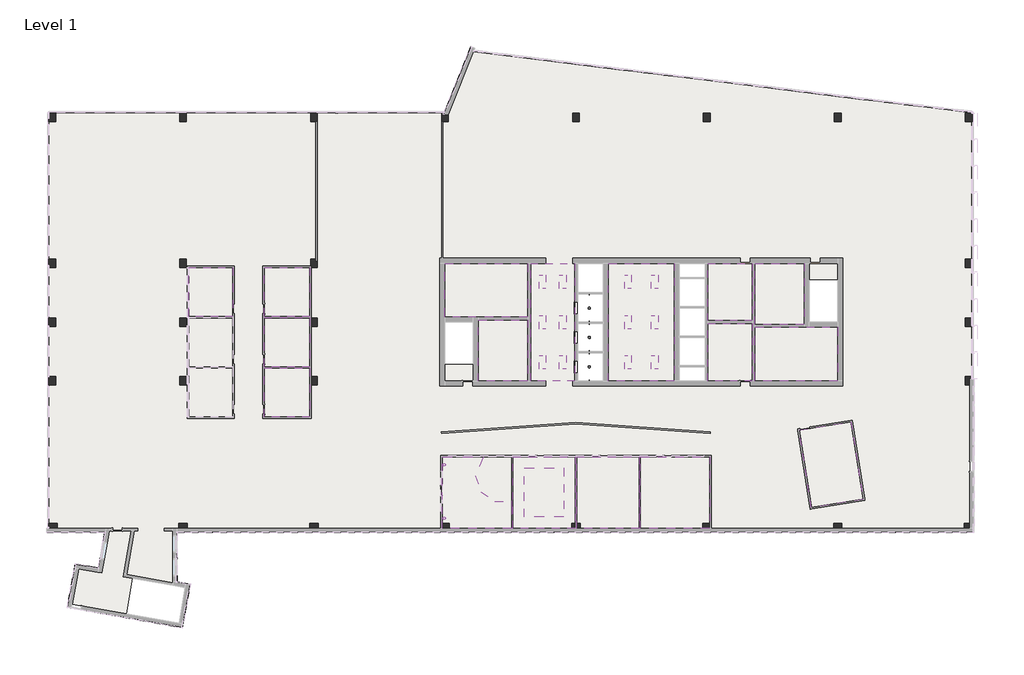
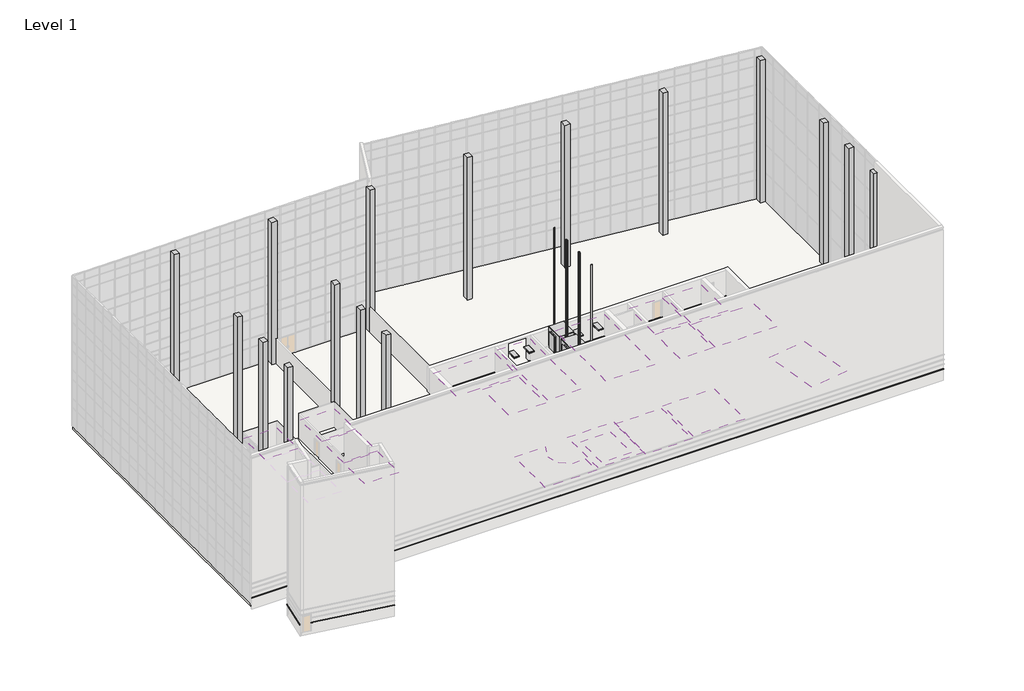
# One storey, part 23 of 23: 28 columns, 18 coverings, 17 proxies, 14 light fixtures, 1 slab.
"""IFC4 building model written with IfcOpenShell, lengths in millimetres."""

from ifc_helpers import new_model, si_unit, point, frame, frame_2d, origin, origin_with_axes, place, context, project, spatial, polyline, circle_curve, trimmed, segment, composite_curve, outline, extrude, faceted_brep, transform, mapped, element, save
from components import proxy_3500_lbs_8e23d717, proxy_7fed659c, concrete_rectangular_column_24_x_30_a0fa8d21, troffer_light_2x4_parabolic_2_x4_2_lamp_120v_ca384779, wall_lamp_bracket_100w_120v_72483117

model = new_model("IFC4")

# Units and contexts
model_context = context("Model", 3, world=origin())
ifc_project = project(units=[si_unit("LENGTHUNIT", "METRE", prefix="MILLI")], contexts=[model_context])

# Site, building, storey
site = spatial("IfcSite", under=ifc_project)
building = spatial("IfcBuilding", under=site)
storey = spatial("IfcBuildingStorey", under=building, Name="Level 1", Elevation=0.0)

# Proxies
placement = place(None, origin())
element("IfcBuildingElementProxy", 1, Name="Wall Sweeps", at=placement, inside=storey, context=model_context, shape_type="Brep", body=[
    faceted_brep([(15090.9304088, -27990.1353492, 1085.85), (15183.0054088, -28082.2103492, 1085.85), (15217.9304088, -28117.1353492, 1041.4), (15217.9304088, -28117.1353492, 1016.0), (15090.9304088, -27990.1353492, 1016.0), (-57168.1625003, -27990.1353492, 1085.85), (-57168.1625003, -27990.1353492, 1016.0), (-57041.1625003, -28117.1353492, 1016.0), (-57041.1625003, -28117.1353492, 1041.4), (-57076.0875003, -28082.2103492, 1085.85), (-57076.0875003, -27990.1353492, 1085.85), (-57076.0875003, -27990.1353492, 1016.0)], [[[0, 1, 2, 3, 4]], [[5, 6, 7, 8, 9]], [[1, 0, 10, 5, 9]], [[2, 1, 9, 8]], [[3, 2, 8, 7]], [[4, 3, 7, 6, 11]], [[0, 4, 11, 6, 5, 10]]]),
])
element("IfcBuildingElementProxy", 2, Name="Wall Sweeps", at=placement, inside=storey, context=model_context, shape_type="Brep", body=[
    faceted_brep([(-63907.0723883, -30506.6915786, 1085.85), (-63907.0723883, -30506.6915786, 1016.0), (-63997.7485622, -30490.7029226, 1016.0), (-64032.142973, -30484.63826, 1016.0), (-64032.142973, -30484.63826, 1041.4), (-63997.7485622, -30490.7029226, 1085.85), (-64081.0179385, -31493.1858149, 1085.85), (-64155.7054564, -31386.5209851, 1085.85), (-64184.0352046, -31346.0619117, 1041.4), (-64184.0352046, -31346.0619117, 1016.0), (-64081.0179385, -31493.1858149, 1016.0)], [[[0, 1, 2, 3, 4, 5]], [[6, 7, 8, 9, 10]], [[0, 5, 7, 6]], [[5, 4, 8, 7]], [[4, 3, 9, 8]], [[3, 2, 1, 10, 9]], [[1, 0, 6, 10]]]),
    faceted_brep([(-63463.3356266, -27990.1353492, 1085.85), (-63463.3356266, -27990.1353492, 1016.0), (-63614.6883329, -28117.1353492, 1016.0), (-63614.6883329, -28117.1353492, 1041.4), (-63573.0663387, -28082.2103492, 1085.85), (-63642.4325656, -29005.844563, 1085.85), (-63733.1087394, -28989.855907, 1085.85), (-63767.5031502, -28983.7912444, 1041.4), (-63767.5031502, -28983.7912444, 1016.0), (-63733.1087394, -28989.855907, 1016.0), (-63642.4325656, -29005.844563, 1016.0)], [[[0, 1, 2, 3, 4]], [[5, 6, 7, 8, 9, 10]], [[0, 4, 6, 5]], [[4, 3, 7, 6]], [[3, 2, 8, 7]], [[2, 1, 10, 9, 8]], [[1, 0, 5, 10]]]),
])
element("IfcBuildingElementProxy", 3, Name="Wall Sweeps", at=placement, inside=storey, context=model_context, shape_type="Brep", body=[
    faceted_brep([(-64081.0179385, -31493.1858149, 1085.85), (-64081.0179385, -31493.1858149, 1016.0), (-64184.0352046, -31346.0619117, 1016.0), (-64184.0352046, -31346.0619117, 1041.4), (-64155.7054564, -31386.5209851, 1085.85), (-66182.2037603, -31122.690063, 1085.85), (-66256.8912782, -31016.0252332, 1085.85), (-66285.2210264, -30975.5661598, 1041.4), (-66285.2210264, -30975.5661598, 1016.0), (-66182.2037603, -31122.690063, 1016.0), (-64171.6941124, -31477.1971589, 1085.85), (-64171.6941124, -31477.1971589, 1016.0)], [[[0, 1, 2, 3, 4]], [[5, 6, 7, 8, 9]], [[0, 4, 6, 5, 10]], [[4, 3, 7, 6]], [[3, 2, 8, 7]], [[2, 1, 11, 9, 8]], [[1, 0, 10, 5, 9, 11]]]),
])
element("IfcBuildingElementProxy", 4, Name="Wall Sweeps", at=placement, inside=storey, context=model_context, shape_type="Brep", body=[
    faceted_brep([(-66182.2037603, -31122.690063, 1085.85), (-66182.2037603, -31122.690063, 1016.0), (-66285.2210264, -30975.5661598, 1016.0), (-66285.2210264, -30975.5661598, 1041.4), (-66256.8912782, -31016.0252332, 1085.85), (-66854.2786436, -34934.2161297, 1085.85), (-66944.9548174, -34918.2274737, 1085.85), (-66979.3492282, -34912.1628111, 1041.4), (-66979.3492282, -34912.1628111, 1016.0), (-66944.9548174, -34918.2274737, 1016.0), (-66854.2786436, -34934.2161297, 1016.0), (-66227.4130634, -31379.0847615, 1085.85), (-66227.4130634, -31379.0847615, 1016.0)], [[[0, 1, 2, 3, 4]], [[5, 6, 7, 8, 9, 10]], [[0, 4, 6, 5, 11]], [[4, 3, 7, 6]], [[3, 2, 8, 7]], [[2, 1, 12, 10, 9, 8]], [[1, 0, 11, 5, 10, 12]]]),
])
element("IfcBuildingElementProxy", 5, Name="Wall Sweeps", at=placement, inside=storey, context=model_context, shape_type="Brep", body=[
    faceted_brep([(-65768.936489, -35032.0958295, 1085.85), (-65768.936489, -35032.0958295, 1016.0), (-65784.925145, -35122.7720034, 1016.0), (-65790.9898076, -35157.1664142, 1016.0), (-65790.9898076, -35157.1664142, 1041.4), (-65784.925145, -35122.7720034, 1085.85), (-56654.4176339, -36639.2314199, 1085.85), (-56579.730116, -36745.8962497, 1085.85), (-56551.4003678, -36786.3553231, 1041.4), (-56551.4003678, -36786.3553231, 1016.0), (-56654.4176339, -36639.2314199, 1016.0)], [[[0, 1, 2, 3, 4, 5]], [[6, 7, 8, 9, 10]], [[0, 5, 7, 6]], [[5, 4, 8, 7]], [[4, 3, 9, 8]], [[3, 2, 1, 10, 9]], [[1, 0, 6, 10]]]),
])
element("IfcBuildingElementProxy", 6, Name="Wall Sweeps", at=placement, inside=storey, context=model_context, shape_type="Brep", body=[
    faceted_brep([(-56654.4176339, -36639.2314199, 1085.85), (-56654.4176339, -36639.2314199, 1016.0), (-56551.4003678, -36786.3553231, 1016.0), (-56551.4003678, -36786.3553231, 1041.4), (-56579.730116, -36745.8962497, 1085.85), (-55998.3314066, -32918.3815271, 1085.85), (-55891.6665768, -32843.6940092, 1085.85), (-55851.2075034, -32815.364261, 1041.4), (-55851.2075034, -32815.364261, 1016.0), (-55998.3314066, -32918.3815271, 1016.0), (-56609.2083309, -36382.8367214, 1085.85), (-56609.2083309, -36382.8367214, 1016.0)], [[[0, 1, 2, 3, 4]], [[5, 6, 7, 8, 9]], [[0, 4, 6, 5, 10]], [[4, 3, 7, 6]], [[3, 2, 8, 7]], [[2, 1, 11, 9, 8]], [[1, 0, 10, 5, 9, 11]]]),
])
element("IfcBuildingElementProxy", 7, Name="Wall Sweeps", at=placement, inside=storey, context=model_context, shape_type="Brep", body=[
    faceted_brep([(-55998.3314066, -32918.3815271, 1085.85), (-55998.3314066, -32918.3815271, 1016.0), (-55851.2075034, -32815.364261, 1016.0), (-55851.2075034, -32815.364261, 1041.4), (-55891.6665768, -32843.6940092, 1085.85), (-57168.1625003, -32712.1087424, 1085.85), (-57076.0875003, -32634.8486438, 1085.85), (-57041.1625003, -32605.5430892, 1041.4), (-57041.1625003, -32605.5430892, 1016.0), (-57168.1625003, -32712.1087424, 1016.0), (-56254.7261051, -32873.172224, 1085.85), (-56254.7261051, -32873.172224, 1016.0)], [[[0, 1, 2, 3, 4]], [[5, 6, 7, 8, 9]], [[0, 4, 6, 5, 10]], [[4, 3, 7, 6]], [[3, 2, 8, 7]], [[2, 1, 11, 9, 8]], [[1, 0, 10, 5, 9, 11]]]),
])
element("IfcBuildingElementProxy", 8, Name="Wall Sweeps", at=placement, inside=storey, context=model_context, shape_type="Brep", body=[
    faceted_brep([(-57168.1625003, -28391.7728492, 1085.85), (-57168.1625003, -28391.7728492, 1016.0), (-57076.0875003, -28391.7728492, 1016.0), (-57041.1625003, -28391.7728492, 1016.0), (-57041.1625003, -28391.7728492, 1041.4), (-57076.0875003, -28391.7728492, 1085.85), (-57168.1625003, -27990.1353492, 1085.85), (-57076.0875003, -28082.2103492, 1085.85), (-57041.1625003, -28117.1353492, 1041.4), (-57041.1625003, -28117.1353492, 1016.0), (-57168.1625003, -27990.1353492, 1016.0)], [[[0, 1, 2, 3, 4, 5]], [[6, 7, 8, 9, 10]], [[0, 5, 7, 6]], [[5, 4, 8, 7]], [[4, 3, 9, 8]], [[3, 2, 1, 10, 9]], [[1, 0, 6, 10]]]),
    faceted_brep([(-57168.1625003, -30525.3728492, 1085.85), (-57168.1625003, -30525.3728492, 1016.0), (-57076.0875003, -30525.3728492, 1016.0), (-57041.1625003, -30525.3728492, 1016.0), (-57041.1625003, -30525.3728492, 1041.4), (-57076.0875003, -30525.3728492, 1085.85), (-57168.1625003, -29915.7728492, 1085.85), (-57076.0875003, -29915.7728492, 1085.85), (-57041.1625003, -29915.7728492, 1041.4), (-57041.1625003, -29915.7728492, 1016.0), (-57076.0875003, -29915.7728492, 1016.0), (-57168.1625003, -29915.7728492, 1016.0)], [[[0, 1, 2, 3, 4, 5]], [[6, 7, 8, 9, 10, 11]], [[0, 5, 7, 6]], [[5, 4, 8, 7]], [[4, 3, 9, 8]], [[3, 2, 1, 11, 10, 9]], [[1, 0, 6, 11]]]),
    faceted_brep([(-57168.1625003, -32712.1087424, 1085.85), (-57168.1625003, -32712.1087424, 1016.0), (-57041.1625003, -32605.5430892, 1016.0), (-57041.1625003, -32605.5430892, 1041.4), (-57076.0875003, -32634.8486438, 1085.85), (-57168.1625003, -32049.3728492, 1085.85), (-57076.0875003, -32049.3728492, 1085.85), (-57041.1625003, -32049.3728492, 1041.4), (-57041.1625003, -32049.3728492, 1016.0), (-57076.0875003, -32049.3728492, 1016.0), (-57168.1625003, -32049.3728492, 1016.0), (-57168.1625003, -32618.6133371, 1085.85), (-57168.1625003, -32618.6133371, 1016.0)], [[[0, 1, 2, 3, 4]], [[5, 6, 7, 8, 9, 10]], [[0, 4, 6, 5, 11]], [[4, 3, 7, 6]], [[3, 2, 8, 7]], [[2, 1, 12, 10, 9, 8]], [[1, 0, 11, 5, 10, 12]]]),
])
element("IfcBuildingElementProxy", 9, Name="Wall Sweeps", at=placement, inside=storey, context=model_context, shape_type="Brep", body=[
    faceted_brep([(-63463.3356266, -27990.1353492, 1085.85), (-63573.0663387, -28082.2103492, 1085.85), (-63614.6883329, -28117.1353492, 1041.4), (-63614.6883329, -28117.1353492, 1016.0), (-63463.3356266, -27990.1353492, 1016.0), (-68878.5489105, -27990.1353492, 1085.85), (-68878.5489105, -27990.1353492, 1016.0), (-68878.5489105, -28082.2103492, 1016.0), (-68878.5489105, -28117.1353492, 1016.0), (-68878.5489105, -28117.1353492, 1041.4), (-68878.5489105, -28082.2103492, 1085.85), (-63556.8310319, -27990.1353492, 1085.85), (-63556.8310319, -27990.1353492, 1016.0)], [[[0, 1, 2, 3, 4]], [[5, 6, 7, 8, 9, 10]], [[1, 0, 11, 5, 10]], [[2, 1, 10, 9]], [[3, 2, 9, 8]], [[4, 3, 8, 7, 6, 12]], [[0, 4, 12, 6, 5, 11]]]),
])
element("IfcBuildingElementProxy", 10, Name="Wall Sweeps", at=placement, inside=storey, context=model_context, shape_type="Brep", body=[
    faceted_brep([(-32762.8098895, 9770.5727487, 1085.85), (-32848.1803429, 9805.0646508, 1085.85), (-32880.5622391, 9818.1477861, 1041.4), (-32880.5622391, 9818.1477861, 1016.0), (-32762.8098895, 9770.5727487, 1016.0), (-30279.0815275, 15918.016165, 1085.85), (-30279.0815275, 15918.016165, 1016.0), (-30364.4519809, 15952.5080671, 1016.0), (-30396.833877, 15965.5912024, 1016.0), (-30396.833877, 15965.5912024, 1041.4), (-30364.4519809, 15952.5080671, 1085.85), (-32748.8742565, 9805.0646508, 1085.85), (-32748.8742565, 9805.0646508, 1016.0)], [[[0, 1, 2, 3, 4]], [[5, 6, 7, 8, 9, 10]], [[1, 0, 11, 5, 10]], [[2, 1, 10, 9]], [[3, 2, 9, 8]], [[4, 3, 8, 7, 6, 12]], [[0, 4, 12, 6, 5, 11]]]),
])
element("IfcBuildingElementProxy", 11, Name="Wall Sweeps", at=placement, inside=storey, context=model_context, shape_type="Brep", body=[
    faceted_brep([(15090.9304088, -14142.3728492, 1085.85), (15183.0054088, -14142.3728492, 1085.85), (15217.9304088, -14142.3728492, 1041.4), (15217.9304088, -14142.3728492, 1016.0), (15183.0054088, -14142.3728492, 1016.0), (15090.9304088, -14142.3728492, 1016.0), (15090.9304088, -21686.0488327, 1085.85), (15090.9304088, -21686.0488327, 1016.0), (15183.0054088, -21686.0488327, 1016.0), (15217.9304088, -21686.0488327, 1016.0), (15217.9304088, -21686.0488327, 1041.4), (15183.0054088, -21686.0488327, 1085.85)], [[[0, 1, 2, 3, 4, 5]], [[6, 7, 8, 9, 10, 11]], [[1, 0, 6, 11]], [[2, 1, 11, 10]], [[3, 2, 10, 9]], [[5, 4, 3, 9, 8, 7]], [[0, 5, 7, 6]]]),
    faceted_brep([(15090.9304088, -22600.4488327, 1085.85), (15183.0054088, -22600.4488327, 1085.85), (15217.9304088, -22600.4488327, 1041.4), (15217.9304088, -22600.4488327, 1016.0), (15183.0054088, -22600.4488327, 1016.0), (15090.9304088, -22600.4488327, 1016.0), (15090.9304088, -27990.1353492, 1085.85), (15090.9304088, -27990.1353492, 1016.0), (15217.9304088, -28117.1353492, 1016.0), (15217.9304088, -28117.1353492, 1041.4), (15183.0054088, -28082.2103492, 1085.85), (15090.9304088, -27729.7853492, 1085.85), (15090.9304088, -27729.7853492, 1016.0)], [[[0, 1, 2, 3, 4, 5]], [[6, 7, 8, 9, 10]], [[1, 0, 11, 6, 10]], [[2, 1, 10, 9]], [[3, 2, 9, 8]], [[5, 4, 3, 8, 7, 12]], [[0, 5, 12, 7, 6, 11]]]),
])
proxy_3500_lbs_shape = proxy_3500_lbs_8e23d717(model_context)
element("IfcBuildingElementProxy", 12, Name="Elevator-Hydraulic[1] : 3500 lbs", ObjectType="Elevator-Hydraulic[1] : 3500 lbs", at=placement, inside=storey, context=model_context, shape_type="MappedRepresentation", body=[
    mapped(proxy_3500_lbs_shape, transform((-19661.1503332, -13088.7633527, 0.0), x_axis=(0.0, -1.0, 0.0), y_axis=(1.0, 0.0, 0.0), z_axis=(0.0, 0.0, 1.0))),
])
element("IfcBuildingElementProxy", 13, Name="Elevator-Hydraulic[1] : 3500 lbs", ObjectType="Elevator-Hydraulic[1] : 3500 lbs", at=placement, inside=storey, context=model_context, shape_type="MappedRepresentation", body=[
    mapped(proxy_3500_lbs_shape, transform((-19661.1503332, -10421.7633527, 0.0), x_axis=(0.0, -1.0, 0.0), y_axis=(1.0, 0.0, 0.0), z_axis=(0.0, 0.0, 1.0))),
])
element("IfcBuildingElementProxy", 14, Name="Elevator-Hydraulic[1] : 3500 lbs", ObjectType="Elevator-Hydraulic[1] : 3500 lbs", at=placement, inside=storey, context=model_context, shape_type="MappedRepresentation", body=[
    mapped(proxy_3500_lbs_shape, transform((-19661.1503332, -7754.7633527, 0.0), x_axis=(0.0, -1.0, 0.0), y_axis=(1.0, 0.0, 0.0), z_axis=(0.0, 0.0, 1.0))),
])
proxy_shape = proxy_7fed659c(model_context)
element("IfcBuildingElementProxy", 15, Name="Elevator%20Door-Center[1] : 42\" x 84\"", ObjectType="Elevator%20Door-Center[1] : 42\" x 84\"", at=placement, inside=storey, context=model_context, shape_type="MappedRepresentation", body=[
    mapped(proxy_shape, transform((-20852.1285069, -7663.0747049, 0.0), x_axis=(0.0, 1.0, 0.0), y_axis=(-1.0, 0.0, 0.0), z_axis=(0.0, 0.0, 1.0))),
])
element("IfcBuildingElementProxy", 16, Name="Elevator%20Door-Center[1] : 42\" x 84\"", ObjectType="Elevator%20Door-Center[1] : 42\" x 84\"", at=placement, inside=storey, context=model_context, shape_type="MappedRepresentation", body=[
    mapped(proxy_shape, transform((-20852.1285069, -10330.0747049, 0.0), x_axis=(0.0, 1.0, 0.0), y_axis=(-1.0, 0.0, 0.0), z_axis=(0.0, 0.0, 1.0))),
])
element("IfcBuildingElementProxy", 17, Name="Elevator%20Door-Center[1] : 42\" x 84\"", ObjectType="Elevator%20Door-Center[1] : 42\" x 84\"", at=placement, inside=storey, context=model_context, shape_type="MappedRepresentation", body=[
    mapped(proxy_shape, transform((-20852.1285069, -12997.0747049, 0.0), x_axis=(0.0, 1.0, 0.0), y_axis=(-1.0, 0.0, 0.0), z_axis=(0.0, 0.0, 1.0))),
])

# Columns
element("IfcColumn", 18, ObjectType="Concrete-Rectangular-Column : 24 x 30", at=placement, inside=storey, context=model_context, shape_type="SweptSolid", body=[
    extrude(outline(polyline([(15045.3286359, -13985.2103492), (15045.3286359, -14747.2103492), (14435.7286359, -14747.2103492), (14435.7286359, -13985.2103492), (15045.3286359, -13985.2103492)])), origin_with_axes(), (0.0, 0.0, 1.0), 18288.0),
])
element("IfcColumn", 19, ObjectType="Concrete-Rectangular-Column : 24 x 30", at=placement, inside=storey, context=model_context, shape_type="SweptSolid", body=[
    extrude(outline(polyline([(15045.3286359, -8651.2103492), (15045.3286359, -9413.2103492), (14435.7286359, -9413.2103492), (14435.7286359, -8651.2103492), (15045.3286359, -8651.2103492)])), origin_with_axes(), (0.0, 0.0, 1.0), 18288.0),
])
element("IfcColumn", 20, ObjectType="Concrete-Rectangular-Column : 24 x 30", at=placement, inside=storey, context=model_context, shape_type="SweptSolid", body=[
    extrude(outline(polyline([(15045.3286359, -3317.2103492), (15045.3286359, -4079.2103492), (14435.7286359, -4079.2103492), (14435.7286359, -3317.2103492), (15045.3286359, -3317.2103492)])), origin_with_axes(), (0.0, 0.0, 1.0), 18288.0),
])
element("IfcColumn", 21, ObjectType="Concrete-Rectangular-Column : 24 x 30", at=placement, inside=storey, context=model_context, shape_type="SweptSolid", body=[
    extrude(outline(polyline([(-68063.4713641, -13985.2103492), (-68063.4713641, -14747.2103492), (-68673.0713641, -14747.2103492), (-68673.0713641, -13985.2103492), (-68063.4713641, -13985.2103492)])), origin_with_axes(), (0.0, 0.0, 1.0), 18288.0),
])
element("IfcColumn", 22, ObjectType="Concrete-Rectangular-Column : 24 x 30", at=placement, inside=storey, context=model_context, shape_type="SweptSolid", body=[
    extrude(outline(polyline([(-68063.4713641, -8651.2103492), (-68063.4713641, -9413.2103492), (-68673.0713641, -9413.2103492), (-68673.0713641, -8651.2103492), (-68063.4713641, -8651.2103492)])), origin_with_axes(), (0.0, 0.0, 1.0), 18288.0),
])
element("IfcColumn", 23, ObjectType="Concrete-Rectangular-Column : 24 x 30", at=placement, inside=storey, context=model_context, shape_type="SweptSolid", body=[
    extrude(outline(polyline([(-68063.4713641, -3317.2103492), (-68063.4713641, -4079.2103492), (-68673.0713641, -4079.2103492), (-68673.0713641, -3317.2103492), (-68063.4713641, -3317.2103492)])), origin_with_axes(), (0.0, 0.0, 1.0), 18288.0),
])
element("IfcColumn", 24, ObjectType="Concrete-Rectangular-Column : 24 x 30", at=placement, inside=storey, context=model_context, shape_type="SweptSolid", body=[
    extrude(outline(polyline([(14435.7286359, 9154.1896508), (14435.7286359, 9916.1896508), (15045.3286359, 9916.1896508), (15045.3286359, 9154.1896508), (14435.7286359, 9154.1896508)])), origin_with_axes(), (0.0, 0.0, 1.0), 18288.0),
])
element("IfcColumn", 25, ObjectType="Concrete-Rectangular-Column : 24 x 30", at=placement, inside=storey, context=model_context, shape_type="SweptSolid", body=[
    extrude(outline(polyline([(-68673.0713641, 9154.1896508), (-68673.0713641, 9916.1896508), (-68063.4713641, 9916.1896508), (-68063.4713641, 9154.1896508), (-68673.0713641, 9154.1896508)])), origin_with_axes(), (0.0, 0.0, 1.0), 18288.0),
])
element("IfcColumn", 26, ObjectType="Concrete-Rectangular-Column : 24 x 30", at=placement, inside=storey, context=model_context, shape_type="SweptSolid", body=[
    extrude(outline(polyline([(2563.0429217, 9154.1896508), (2563.0429217, 9916.1896508), (3172.6429217, 9916.1896508), (3172.6429217, 9154.1896508), (2563.0429217, 9154.1896508)])), origin_with_axes(), (0.0, 0.0, 1.0), 18288.0),
])
element("IfcColumn", 27, ObjectType="Concrete-Rectangular-Column : 24 x 30", at=placement, inside=storey, context=model_context, shape_type="SweptSolid", body=[
    extrude(outline(polyline([(-9309.6427926, 9154.1896508), (-9309.6427926, 9916.1896508), (-8700.0427926, 9916.1896508), (-8700.0427926, 9154.1896508), (-9309.6427926, 9154.1896508)])), origin_with_axes(), (0.0, 0.0, 1.0), 18288.0),
])
element("IfcColumn", 28, ObjectType="Concrete-Rectangular-Column : 24 x 30", at=placement, inside=storey, context=model_context, shape_type="SweptSolid", body=[
    extrude(outline(polyline([(-21182.3285069, 9154.1896508), (-21182.3285069, 9916.1896508), (-20572.7285069, 9916.1896508), (-20572.7285069, 9154.1896508), (-21182.3285069, 9154.1896508)])), origin_with_axes(), (0.0, 0.0, 1.0), 18288.0),
])
element("IfcColumn", 29, ObjectType="Concrete-Rectangular-Column : 24 x 30", at=placement, inside=storey, context=model_context, shape_type="SweptSolid", body=[
    extrude(outline(polyline([(-33055.0142212, 9154.1896508), (-33055.0142212, 9916.1896508), (-32445.4142212, 9916.1896508), (-32445.4142212, 9154.1896508), (-33055.0142212, 9154.1896508)])), origin_with_axes(), (0.0, 0.0, 1.0), 18288.0),
])
element("IfcColumn", 30, ObjectType="Concrete-Rectangular-Column : 24 x 30", at=placement, inside=storey, context=model_context, shape_type="SweptSolid", body=[
    extrude(outline(polyline([(-44927.6999355, 9154.1896508), (-44927.6999355, 9916.1896508), (-44318.0999355, 9916.1896508), (-44318.0999355, 9154.1896508), (-44927.6999355, 9154.1896508)])), origin_with_axes(), (0.0, 0.0, 1.0), 18288.0),
])
element("IfcColumn", 31, ObjectType="Concrete-Rectangular-Column : 24 x 30", at=placement, inside=storey, context=model_context, shape_type="SweptSolid", body=[
    extrude(outline(polyline([(-56800.3856498, 9154.1896508), (-56800.3856498, 9916.1896508), (-56190.7856498, 9916.1896508), (-56190.7856498, 9154.1896508), (-56800.3856498, 9154.1896508)])), origin_with_axes(), (0.0, 0.0, 1.0), 18288.0),
])
element("IfcColumn", 32, ObjectType="Concrete-Rectangular-Column : 24 x 30", at=placement, inside=storey, context=model_context, shape_type="SweptSolid", body=[
    extrude(outline(polyline([(14359.5286359, -27294.8103492), (15121.5286359, -27294.8103492), (15121.5286359, -27904.4103492), (14359.5286359, -27904.4103492), (14359.5286359, -27294.8103492)])), origin_with_axes(), (0.0, 0.0, 1.0), 18288.0),
])
element("IfcColumn", 33, ObjectType="Concrete-Rectangular-Column : 24 x 30", at=placement, inside=storey, context=model_context, shape_type="SweptSolid", body=[
    extrude(outline(polyline([(-68660.7599961, -27294.8103492), (-67898.7599961, -27294.8103492), (-67898.7599961, -27904.4103492), (-68660.7599961, -27904.4103492), (-68660.7599961, -27294.8103492)])), origin_with_axes(), (0.0, 0.0, 1.0), 18288.0),
])
element("IfcColumn", 34, ObjectType="Concrete-Rectangular-Column : 24 x 30", at=placement, inside=storey, context=model_context, shape_type="SweptSolid", body=[
    extrude(outline(polyline([(2486.8429217, -27294.8103492), (3248.8429217, -27294.8103492), (3248.8429217, -27904.4103492), (2486.8429217, -27904.4103492), (2486.8429217, -27294.8103492)])), origin_with_axes(), (0.0, 0.0, 1.0), 18288.0),
])
element("IfcColumn", 35, ObjectType="Concrete-Rectangular-Column : 24 x 30", at=placement, inside=storey, context=model_context, shape_type="SweptSolid", body=[
    extrude(outline(polyline([(-9385.8427926, -27294.8103492), (-8623.8427926, -27294.8103492), (-8623.8427926, -27904.4103492), (-9385.8427926, -27904.4103492), (-9385.8427926, -27294.8103492)])), origin_with_axes(), (0.0, 0.0, 1.0), 18288.0),
])
element("IfcColumn", 36, ObjectType="Concrete-Rectangular-Column : 24 x 30", at=placement, inside=storey, context=model_context, shape_type="SweptSolid", body=[
    extrude(outline(polyline([(-21258.5285069, -27294.8103492), (-20496.5285069, -27294.8103492), (-20496.5285069, -27904.4103492), (-21258.5285069, -27904.4103492), (-21258.5285069, -27294.8103492)])), origin_with_axes(), (0.0, 0.0, 1.0), 18288.0),
])
element("IfcColumn", 37, ObjectType="Concrete-Rectangular-Column : 24 x 30", at=placement, inside=storey, context=model_context, shape_type="SweptSolid", body=[
    extrude(outline(polyline([(-33131.2142212, -27294.8103492), (-32369.2142212, -27294.8103492), (-32369.2142212, -27904.4103492), (-33131.2142212, -27904.4103492), (-33131.2142212, -27294.8103492)])), origin_with_axes(), (0.0, 0.0, 1.0), 18288.0),
])
element("IfcColumn", 38, ObjectType="Concrete-Rectangular-Column : 24 x 30", at=placement, inside=storey, context=model_context, shape_type="SweptSolid", body=[
    extrude(outline(polyline([(-45003.8999355, -27294.8103492), (-44241.8999355, -27294.8103492), (-44241.8999355, -27904.4103492), (-45003.8999355, -27904.4103492), (-45003.8999355, -27294.8103492)])), origin_with_axes(), (0.0, 0.0, 1.0), 18288.0),
])
element("IfcColumn", 39, ObjectType="Concrete-Rectangular-Column : 24 x 30", at=placement, inside=storey, context=model_context, shape_type="SweptSolid", body=[
    extrude(outline(polyline([(-56876.5856498, -27294.8103492), (-56114.5856498, -27294.8103492), (-56114.5856498, -27904.4103492), (-56876.5856498, -27904.4103492), (-56876.5856498, -27294.8103492)])), origin_with_axes(), (0.0, 0.0, 1.0), 18288.0),
])
concrete_rectangular_column_24_x_30_shape = concrete_rectangular_column_24_x_30_a0fa8d21(model_context)
element("IfcColumn", 40, ObjectType="Concrete-Rectangular-Column : 24 x 30", at=placement, inside=storey, context=model_context, shape_type="MappedRepresentation", body=[
    mapped(concrete_rectangular_column_24_x_30_shape, transform((-44622.8999355, -14366.2103492, 0.0), x_axis=(1.0, 0.0, 0.0), y_axis=(0.0, 1.0, 0.0), z_axis=(0.0, 0.0, 1.0))),
])
element("IfcColumn", 41, ObjectType="Concrete-Rectangular-Column : 24 x 30", at=placement, inside=storey, context=model_context, shape_type="MappedRepresentation", body=[
    mapped(concrete_rectangular_column_24_x_30_shape, transform((-56495.5856498, -14366.2103492, 0.0), x_axis=(1.0, 0.0, 0.0), y_axis=(0.0, 1.0, 0.0), z_axis=(0.0, 0.0, 1.0))),
])
element("IfcColumn", 42, ObjectType="Concrete-Rectangular-Column : 24 x 30", at=placement, inside=storey, context=model_context, shape_type="MappedRepresentation", body=[
    mapped(concrete_rectangular_column_24_x_30_shape, transform((-44622.8999355, -9032.2103492, 0.0), x_axis=(1.0, 0.0, 0.0), y_axis=(0.0, 1.0, 0.0), z_axis=(0.0, 0.0, 1.0))),
])
element("IfcColumn", 43, ObjectType="Concrete-Rectangular-Column : 24 x 30", at=placement, inside=storey, context=model_context, shape_type="MappedRepresentation", body=[
    mapped(concrete_rectangular_column_24_x_30_shape, transform((-56495.5856498, -9032.2103492, 0.0), x_axis=(1.0, 0.0, 0.0), y_axis=(0.0, 1.0, 0.0), z_axis=(0.0, 0.0, 1.0))),
])
element("IfcColumn", 44, ObjectType="Concrete-Rectangular-Column : 24 x 30", at=placement, inside=storey, context=model_context, shape_type="MappedRepresentation", body=[
    mapped(concrete_rectangular_column_24_x_30_shape, transform((-44622.8999355, -3698.2103492, 0.0), x_axis=(1.0, 0.0, 0.0), y_axis=(0.0, 1.0, 0.0), z_axis=(0.0, 0.0, 1.0))),
])
element("IfcColumn", 45, ObjectType="Concrete-Rectangular-Column : 24 x 30", at=placement, inside=storey, context=model_context, shape_type="MappedRepresentation", body=[
    mapped(concrete_rectangular_column_24_x_30_shape, transform((-56495.5856498, -3698.2103492, 0.0), x_axis=(1.0, 0.0, 0.0), y_axis=(0.0, 1.0, 0.0), z_axis=(0.0, 0.0, 1.0))),
])

# Coverings
element("IfcCovering", 46, ObjectType="2' x 2' ACT System", at=placement, inside=storey, context=model_context, shape_type="SweptSolid", body=[
    extrude(outline(polyline([(-49131.3999355, -4066.5103492), (-44991.1999355, -4066.5103492), (-44991.1999355, -8511.5103492), (-49131.3999355, -8511.5103492), (-49131.3999355, -4066.5103492)])), frame((0.0, 0.0, 2438.4), z_axis=(0.0, 0.0, 1.0), x_axis=(1.0, 0.0, 0.0)), (0.0, 0.0, 1.0), 57.15),
])
element("IfcCovering", 47, ObjectType="2' x 2' ACT System", at=placement, inside=storey, context=model_context, shape_type="SweptSolid", body=[
    extrude(outline(polyline([(-44991.1999355, -8638.5103492), (-44991.1999355, -13083.5103492), (-49131.3999355, -13083.5103492), (-49131.3999355, -8638.5103492), (-44991.1999355, -8638.5103492)])), frame((0.0, 0.0, 2438.4), z_axis=(0.0, 0.0, 1.0), x_axis=(1.0, 0.0, 0.0)), (0.0, 0.0, 1.0), 57.15),
])
element("IfcCovering", 48, ObjectType="2' x 2' ACT System", at=placement, inside=storey, context=model_context, shape_type="SweptSolid", body=[
    extrude(outline(polyline([(-44991.1999355, -13210.5103492), (-44991.1999355, -17655.5103492), (-49131.3999355, -17655.5103492), (-49131.3999355, -13210.5103492), (-44991.1999355, -13210.5103492)])), frame((0.0, 0.0, 2438.4), z_axis=(0.0, 0.0, 1.0), x_axis=(1.0, 0.0, 0.0)), (0.0, 0.0, 1.0), 57.15),
])
element("IfcCovering", 49, ObjectType="2' x 2' ACT System", at=placement, inside=storey, context=model_context, shape_type="SweptSolid", body=[
    extrude(outline(polyline([(-56000.2856498, -8511.5103492), (-56000.2856498, -4066.5103492), (-51987.0856498, -4066.5103492), (-51987.0856498, -8511.5103492), (-56000.2856498, -8511.5103492)])), frame((0.0, 0.0, 2438.4), z_axis=(0.0, 0.0, 1.0), x_axis=(1.0, 0.0, 0.0)), (0.0, 0.0, 1.0), 57.15),
])
element("IfcCovering", 50, ObjectType="2' x 4' ACT System", at=placement, inside=storey, context=model_context, shape_type="SweptSolid", body=[
    extrude(outline(polyline([(5175.4713993, -25116.831377), (484.1493191, -25859.8637991), (-629.14639, -18830.7913293), (4062.1756902, -18087.7589073), (5175.4713993, -25116.831377)])), frame((0.0, 0.0, 2438.4), z_axis=(0.0, 0.0, 1.0), x_axis=(1.0, 0.0, 0.0)), (0.0, 0.0, 1.0), 57.15),
])
element("IfcCovering", 51, ObjectType="2' x 4' ACT System", at=placement, inside=storey, context=model_context, shape_type="SweptSolid", body=[
    extrude(outline(polyline([(2867.8429217, -14366.2103492), (-4636.0427926, -14366.2103492), (-4636.0427926, -9489.4103492), (55.7000645, -9489.4103492), (2867.8429217, -9489.4103492), (2867.8429217, -14366.2103492)])), frame((0.0, 0.0, 2438.4), z_axis=(0.0, 0.0, 1.0), x_axis=(1.0, 0.0, 0.0)), (0.0, 0.0, 1.0), 57.15),
])
element("IfcCovering", 52, ObjectType="2' x 4' ACT System", at=placement, inside=storey, context=model_context, shape_type="SweptSolid", body=[
    extrude(outline(polyline([(-4636.0427926, -3698.2103492), (-172.8999355, -3698.2103492), (-172.8999355, -9235.4103492), (-4636.0427926, -9235.4103492), (-4636.0427926, -3698.2103492)])), frame((0.0, 0.0, 2438.4), z_axis=(0.0, 0.0, 1.0), x_axis=(1.0, 0.0, 0.0)), (0.0, 0.0, 1.0), 57.15),
])
element("IfcCovering", 53, ObjectType="2' x 4' ACT System", at=placement, inside=storey, context=model_context, shape_type="SweptSolid", body=[
    extrude(outline(polyline([(-8903.2427926, -3698.2103492), (-4890.0427926, -3698.2103492), (-4890.0427926, -8905.2103492), (-8903.2427926, -8905.2103492), (-8903.2427926, -3698.2103492)])), frame((0.0, 0.0, 2438.4), z_axis=(0.0, 0.0, 1.0), x_axis=(1.0, 0.0, 0.0)), (0.0, 0.0, 1.0), 57.15),
])
element("IfcCovering", 54, ObjectType="2' x 4' ACT System", at=placement, inside=storey, context=model_context, shape_type="SweptSolid", body=[
    extrude(outline(polyline([(-4890.0427926, -9159.2103492), (-4890.0427926, -14366.2103492), (-8903.2427926, -14366.2103492), (-8903.2427926, -9159.2103492), (-4890.0427926, -9159.2103492)])), frame((0.0, 0.0, 2438.4), z_axis=(0.0, 0.0, 1.0), x_axis=(1.0, 0.0, 0.0)), (0.0, 0.0, 1.0), 57.15),
])
element("IfcCovering", 55, ObjectType="2' x 4' ACT System", at=placement, inside=storey, context=model_context, shape_type="SweptSolid", body=[
    extrude(outline(polyline([(-15145.2927926, -21262.3103492), (-15145.2927926, -27729.7853492), (-20814.0285069, -27729.7853492), (-20814.0285069, -21262.3103492), (-15145.2927926, -21262.3103492)]), holes=[polyline([(-15754.8927926, -21871.9103492), (-20204.4285069, -21871.9103492), (-20204.4285069, -27120.1853492), (-15754.8927926, -27120.1853492), (-15754.8927926, -21871.9103492)])]), frame((0.0, 0.0, 2438.4), z_axis=(0.0, 0.0, 1.0), x_axis=(1.0, 0.0, 0.0)), (0.0, 0.0, 1.0), 57.15),
    extrude(outline(polyline([(-16364.4927926, -22481.5103492), (-16364.4927926, -26510.5853492), (-19594.8285069, -26510.5853492), (-19594.8285069, -22481.5103492), (-16364.4927926, -22481.5103492)])), frame((0.0, 0.0, 2438.4), z_axis=(0.0, 0.0, 1.0), x_axis=(1.0, 0.0, 0.0)), (0.0, 0.0, 1.0), 57.15),
])
element("IfcCovering", 56, ObjectType="2' x 4' ACT System", at=placement, inside=storey, context=model_context, shape_type="SweptSolid", body=[
    extrude(outline(polyline([(-24992.3285069, -14366.2103492), (-24992.3285069, -3698.2103492), (-20979.1285069, -3698.2103492), (-20979.1285069, -14366.2103492), (-24992.3285069, -14366.2103492)]), holes=[polyline([(-21766.5285069, -13299.4103492), (-21766.5285069, -12080.2103492), (-22376.1285069, -12080.2103492), (-22376.1285069, -13299.4103492), (-21766.5285069, -13299.4103492)]), polyline([(-23595.3285069, -13299.4103492), (-23595.3285069, -12080.2103492), (-24204.9285069, -12080.2103492), (-24204.9285069, -13299.4103492), (-23595.3285069, -13299.4103492)]), polyline([(-21766.5285069, -9641.8103492), (-21766.5285069, -8422.6103492), (-22376.1285069, -8422.6103492), (-22376.1285069, -9641.8103492), (-21766.5285069, -9641.8103492)]), polyline([(-23595.3285069, -9641.8103492), (-23595.3285069, -8422.6103492), (-24204.9285069, -8422.6103492), (-24204.9285069, -9641.8103492), (-23595.3285069, -9641.8103492)]), polyline([(-21766.5285069, -5984.2103492), (-21766.5285069, -4765.0103492), (-22376.1285069, -4765.0103492), (-22376.1285069, -5984.2103492), (-21766.5285069, -5984.2103492)]), polyline([(-23595.3285069, -5984.2103492), (-23595.3285069, -4765.0103492), (-24204.9285069, -4765.0103492), (-24204.9285069, -5984.2103492), (-23595.3285069, -5984.2103492)])]), frame((0.0, 0.0, 2743.2), z_axis=(0.0, 0.0, 1.0), x_axis=(1.0, 0.0, 0.0)), (0.0, 0.0, 1.0), 57.15),
])
element("IfcCovering", 57, ObjectType="2' x 4' ACT System", at=placement, inside=storey, context=model_context, shape_type="SweptSolid", body=[
    extrude(outline(polyline([(-11954.4428559, -14366.2103492), (-17927.9284437, -14366.2103492), (-17927.9284437, -3698.2103492), (-11954.4428559, -3698.2103492), (-11954.4428559, -14366.2103492)]), holes=[polyline([(-15855.5856498, -13299.4103492), (-15855.5856498, -12080.2103492), (-16465.1856498, -12080.2103492), (-16465.1856498, -13299.4103492), (-15855.5856498, -13299.4103492)]), polyline([(-15855.5856498, -9641.8103492), (-15855.5856498, -8422.6103492), (-16465.1856498, -8422.6103492), (-16465.1856498, -9641.8103492), (-15855.5856498, -9641.8103492)]), polyline([(-15855.5856498, -5984.2103492), (-15855.5856498, -4765.0103492), (-16465.1856498, -4765.0103492), (-16465.1856498, -5984.2103492), (-15855.5856498, -5984.2103492)]), polyline([(-13417.1856498, -13299.4103492), (-13417.1856498, -12080.2103492), (-14026.7856498, -12080.2103492), (-14026.7856498, -13299.4103492), (-13417.1856498, -13299.4103492)]), polyline([(-13417.1856498, -9641.8103492), (-13417.1856498, -8422.6103492), (-14026.7856498, -8422.6103492), (-14026.7856498, -9641.8103492), (-13417.1856498, -9641.8103492)]), polyline([(-13417.1856498, -5984.2103492), (-13417.1856498, -4765.0103492), (-14026.7856498, -4765.0103492), (-14026.7856498, -5984.2103492), (-13417.1856498, -5984.2103492)])]), frame((0.0, 0.0, 2743.2), z_axis=(0.0, 0.0, 1.0), x_axis=(1.0, 0.0, 0.0)), (0.0, 0.0, 1.0), 57.15),
])
element("IfcCovering", 58, ObjectType="2' x 4' ACT System", at=placement, inside=storey, context=model_context, shape_type="SweptSolid", body=[
    extrude(outline(polyline([(-8750.8427926, -21262.3103492), (-8750.8427926, -27729.7853492), (-15018.2927926, -27729.7853492), (-15018.2927926, -21262.3103492), (-8750.8427926, -21262.3103492)]), holes=[polyline([(-14065.7927926, -26713.7853492), (-9766.8427926, -26713.7853492), (-9766.8427926, -22214.8103492), (-14065.7927926, -22214.8103492), (-14065.7927926, -26713.7853492)])]), frame((0.0, 0.0, 2743.2), z_axis=(0.0, 0.0, 1.0), x_axis=(1.0, 0.0, 0.0)), (0.0, 0.0, 1.0), 57.15),
])
element("IfcCovering", 59, ObjectType="2' x 4' ACT System", at=placement, inside=storey, context=model_context, shape_type="SweptSolid", body=[
    extrude(outline(polyline([(-21957.0285069, -22278.3103492), (-21957.0285069, -26713.7853492), (-25571.9927926, -26713.7853492), (-25571.9927926, -22278.3103492), (-21957.0285069, -22278.3103492)])), frame((0.0, 0.0, 2438.4), z_axis=(0.0, 0.0, 1.0), x_axis=(1.0, 0.0, 0.0)), (0.0, 0.0, 1.0), 57.15),
])
element("IfcCovering", 60, ObjectType="GWB on Mtl. Stud", at=placement, inside=storey, context=model_context, shape_type="SweptSolid", body=[
    extrude(outline(polyline([(-25246.3285069, -8829.0103492), (-25246.3285069, -14366.2103492), (-29709.4713641, -14366.2103492), (-29709.4713641, -8829.0103492), (-25246.3285069, -8829.0103492)])), frame((0.0, 0.0, 2438.4), z_axis=(0.0, 0.0, 1.0), x_axis=(1.0, 0.0, 0.0)), (0.0, 0.0, 1.0), 107.95),
])
element("IfcCovering", 61, ObjectType="GWB on Mtl. Stud", at=placement, inside=storey, context=model_context, shape_type="SweptSolid", body=[
    extrude(outline(polyline([(-32750.2142212, -3698.2103492), (-25246.3285069, -3698.2103492), (-25246.3285069, -8575.0103492), (-29938.0713641, -8575.0103492), (-32750.2142212, -8575.0103492), (-32750.2142212, -3698.2103492)])), frame((0.0, 0.0, 2438.4), z_axis=(0.0, 0.0, 1.0), x_axis=(1.0, 0.0, 0.0)), (0.0, 0.0, 1.0), 107.95),
])
element("IfcCovering", 62, ObjectType="GWB on Mtl. Stud", at=placement, inside=storey, context=model_context, shape_type="SweptSolid", body=[
    extrude(outline(composite_curve([segment(polyline([(-33004.2142212, -27729.7853492), (-33004.2142212, -21262.3103492), (-29284.0698109, -21262.3103492)]), True, "CONTINUOUS"), segment(trimmed(circle_curve(frame_2d((-27542.3800226, -22968.8598625)), 2438.4), [point((-29284.0698109, -21262.3103492))], [point((-29980.7800226, -22968.8598625))], True, "CARTESIAN"), True, "CONTINUOUS"), segment(trimmed(circle_curve(frame_2d((-27542.3800226, -22968.8598625)), 2438.4), [point((-29980.7800226, -22968.8598625))], [point((-26714.9927926, -25262.595883))], True, "CARTESIAN"), True, "CONTINUOUS"), segment(polyline([(-26714.9927926, -25262.595883), (-26714.9927926, -27729.7853492), (-33004.2142212, -27729.7853492)]), True, "CONTINUOUS")], self_intersect=False), holes=[polyline([(-32127.0605055, -26756.6376676), (-30755.4605055, -26756.6376676), (-30755.4605055, -24927.8376676), (-32127.0605055, -24927.8376676), (-32127.0605055, -26756.6376676)])]), frame((0.0, 0.0, 2438.4), z_axis=(0.0, 0.0, 1.0), x_axis=(1.0, 0.0, 0.0)), (0.0, 0.0, 1.0), 107.95),
])
element("IfcCovering", 63, ObjectType="GWB on Mtl. Stud", at=placement, inside=storey, context=model_context, shape_type="SweptSolid", body=[
    extrude(outline(polyline([(-20941.0285069, -21262.3103492), (-20941.0285069, -27729.7853492), (-26587.9927926, -27729.7853492), (-26587.9927926, -21262.3103492), (-20941.0285069, -21262.3103492)])), frame((0.0, 0.0, 2743.2), z_axis=(0.0, 0.0, 1.0), x_axis=(1.0, 0.0, 0.0)), (0.0, 0.0, 1.0), 107.95),
])

# Light fixtures
troffer_light_2x4_parabolic_2_x4_2_lamp_120v_shape = troffer_light_2x4_parabolic_2_x4_2_lamp_120v_ca384779(model_context)
element("IfcLightFixture", 64, ObjectType="Troffer Light - 2x4 Parabolic : 2'x4'(2 Lamp) - 120V", at=placement, inside=storey, context=model_context, shape_type="MappedRepresentation", body=[
    mapped(troffer_light_2x4_parabolic_2_x4_2_lamp_120v_shape, transform((-16100.9197177, -12708.5138508, 304.8), x_axis=(0.0, -1.0, 0.0), y_axis=(1.0, 0.0, 0.0), z_axis=(0.0, 0.0, 1.0))),
])
element("IfcLightFixture", 65, ObjectType="Troffer Light - 2x4 Parabolic : 2'x4'(2 Lamp) - 120V", at=placement, inside=storey, context=model_context, shape_type="MappedRepresentation", body=[
    mapped(troffer_light_2x4_parabolic_2_x4_2_lamp_120v_shape, transform((-16100.9197177, -9050.9138508, 304.8), x_axis=(0.0, -1.0, 0.0), y_axis=(1.0, 0.0, 0.0), z_axis=(0.0, 0.0, 1.0))),
])
element("IfcLightFixture", 66, ObjectType="Troffer Light - 2x4 Parabolic : 2'x4'(2 Lamp) - 120V", at=placement, inside=storey, context=model_context, shape_type="MappedRepresentation", body=[
    mapped(troffer_light_2x4_parabolic_2_x4_2_lamp_120v_shape, transform((-16100.9197177, -5393.3138508, 304.8), x_axis=(0.0, -1.0, 0.0), y_axis=(1.0, 0.0, 0.0), z_axis=(0.0, 0.0, 1.0))),
])
element("IfcLightFixture", 67, ObjectType="Troffer Light - 2x4 Parabolic : 2'x4'(2 Lamp) - 120V", at=placement, inside=storey, context=model_context, shape_type="MappedRepresentation", body=[
    mapped(troffer_light_2x4_parabolic_2_x4_2_lamp_120v_shape, transform((-13662.5197177, -12708.5138508, 304.8), x_axis=(0.0, -1.0, 0.0), y_axis=(1.0, 0.0, 0.0), z_axis=(0.0, 0.0, 1.0))),
])
element("IfcLightFixture", 68, ObjectType="Troffer Light - 2x4 Parabolic : 2'x4'(2 Lamp) - 120V", at=placement, inside=storey, context=model_context, shape_type="MappedRepresentation", body=[
    mapped(troffer_light_2x4_parabolic_2_x4_2_lamp_120v_shape, transform((-13662.5197177, -9050.9138508, 304.8), x_axis=(0.0, -1.0, 0.0), y_axis=(1.0, 0.0, 0.0), z_axis=(0.0, 0.0, 1.0))),
])
element("IfcLightFixture", 69, ObjectType="Troffer Light - 2x4 Parabolic : 2'x4'(2 Lamp) - 120V", at=placement, inside=storey, context=model_context, shape_type="MappedRepresentation", body=[
    mapped(troffer_light_2x4_parabolic_2_x4_2_lamp_120v_shape, transform((-13662.5197177, -5393.3138508, 304.8), x_axis=(0.0, -1.0, 0.0), y_axis=(1.0, 0.0, 0.0), z_axis=(0.0, 0.0, 1.0))),
])
element("IfcLightFixture", 70, ObjectType="Troffer Light - 2x4 Parabolic : 2'x4'(2 Lamp) - 120V", at=placement, inside=storey, context=model_context, shape_type="MappedRepresentation", body=[
    mapped(troffer_light_2x4_parabolic_2_x4_2_lamp_120v_shape, transform((-22011.8625748, -12708.5138508, 304.8), x_axis=(0.0, -1.0, 0.0), y_axis=(1.0, 0.0, 0.0), z_axis=(0.0, 0.0, 1.0))),
])
element("IfcLightFixture", 71, ObjectType="Troffer Light - 2x4 Parabolic : 2'x4'(2 Lamp) - 120V", at=placement, inside=storey, context=model_context, shape_type="MappedRepresentation", body=[
    mapped(troffer_light_2x4_parabolic_2_x4_2_lamp_120v_shape, transform((-23840.6625748, -12708.5138508, 304.8), x_axis=(0.0, -1.0, 0.0), y_axis=(1.0, 0.0, 0.0), z_axis=(0.0, 0.0, 1.0))),
])
element("IfcLightFixture", 72, ObjectType="Troffer Light - 2x4 Parabolic : 2'x4'(2 Lamp) - 120V", at=placement, inside=storey, context=model_context, shape_type="MappedRepresentation", body=[
    mapped(troffer_light_2x4_parabolic_2_x4_2_lamp_120v_shape, transform((-22011.8625748, -9050.9138508, 304.8), x_axis=(0.0, -1.0, 0.0), y_axis=(1.0, 0.0, 0.0), z_axis=(0.0, 0.0, 1.0))),
])
element("IfcLightFixture", 73, ObjectType="Troffer Light - 2x4 Parabolic : 2'x4'(2 Lamp) - 120V", at=placement, inside=storey, context=model_context, shape_type="MappedRepresentation", body=[
    mapped(troffer_light_2x4_parabolic_2_x4_2_lamp_120v_shape, transform((-23840.6625748, -9050.9138508, 304.8), x_axis=(0.0, -1.0, 0.0), y_axis=(1.0, 0.0, 0.0), z_axis=(0.0, 0.0, 1.0))),
])
element("IfcLightFixture", 74, ObjectType="Troffer Light - 2x4 Parabolic : 2'x4'(2 Lamp) - 120V", at=placement, inside=storey, context=model_context, shape_type="MappedRepresentation", body=[
    mapped(troffer_light_2x4_parabolic_2_x4_2_lamp_120v_shape, transform((-22011.8625748, -5393.3138508, 304.8), x_axis=(0.0, -1.0, 0.0), y_axis=(1.0, 0.0, 0.0), z_axis=(0.0, 0.0, 1.0))),
])
element("IfcLightFixture", 75, ObjectType="Troffer Light - 2x4 Parabolic : 2'x4'(2 Lamp) - 120V", at=placement, inside=storey, context=model_context, shape_type="MappedRepresentation", body=[
    mapped(troffer_light_2x4_parabolic_2_x4_2_lamp_120v_shape, transform((-23840.6625748, -5393.3138508, 304.8), x_axis=(0.0, -1.0, 0.0), y_axis=(1.0, 0.0, 0.0), z_axis=(0.0, 0.0, 1.0))),
])
wall_lamp_bracket_100w_120v_shape = wall_lamp_bracket_100w_120v_72483117(model_context)
element("IfcLightFixture", 76, ObjectType="Wall Lamp - Bracket : 100W - 120V", at=placement, inside=storey, context=model_context, shape_type="MappedRepresentation", body=[
    mapped(wall_lamp_bracket_100w_120v_shape, transform((-33067.7142212, -26875.5535119, -254.0), x_axis=(0.0, -1.0, 0.0), y_axis=(1.0, 0.0, 0.0), z_axis=(0.0, 0.0, 1.0))),
])
element("IfcLightFixture", 77, ObjectType="Wall Lamp - Bracket : 100W - 120V", at=placement, inside=storey, context=model_context, shape_type="MappedRepresentation", body=[
    mapped(wall_lamp_bracket_100w_120v_shape, transform((-33067.7142212, -22024.1535119, -254.0), x_axis=(0.0, -1.0, 0.0), y_axis=(1.0, 0.0, 0.0), z_axis=(0.0, 0.0, 1.0))),
])

# Slab
element("IfcSlab", 78, ObjectType="Steel Bar Joist 14\" - Concrete", at=placement, inside=storey, context=model_context, shape_type="SweptSolid", body=[
    extrude(outline(polyline([(-68660.7599961, -27742.4853492), (-68660.7599961, 9954.2896508), (-32421.4843139, 9954.2896508), (-30175.817983, 15512.5088637), (15043.3054088, 9960.2986536), (15043.3054088, -15034.4255886), (14830.5804088, -15034.4255886), (14830.5804088, -27735.220667), (-57415.8125003, -27735.220667), (-57415.8125003, -32919.911766), (-61087.9334678, -32272.417763), (-61658.0117526, -35505.4923758), (-66551.3983764, -34642.656287), (-65981.3200915, -31409.5816742), (-63880.1342697, -31780.0774261), (-63168.1978494, -27742.4853492), (-68660.7599961, -27742.4853492)]), holes=[polyline([(-32750.2142212, -9032.2103492), (-32750.2142212, -12842.2103492), (-30166.6713641, -12842.2103492), (-30166.6713641, -9032.2103492), (-32750.2142212, -9032.2103492)]), polyline([(-20725.1285069, -3698.2103492), (-20725.1285069, -14366.2103492), (-18385.1284437, -14366.2103492), (-18385.1284437, -3698.2103492), (-20725.1285069, -3698.2103492)]), polyline([(-9157.2427926, -3698.2103492), (-11497.2428559, -3698.2103492), (-11497.2428559, -14366.2103492), (-9157.2427926, -14366.2103492), (-9157.2427926, -3698.2103492)]), polyline([(2867.8429217, -9032.2103492), (2867.8429217, -5222.2103492), (284.3000645, -5222.2103492), (284.3000645, -9032.2103492), (2867.8429217, -9032.2103492)])]), frame((0.0, 0.0, -434.975), z_axis=(0.0, 0.0, 1.0), x_axis=(1.0, 0.0, 0.0)), (0.0, 0.0, 1.0), 434.975),
])

save(model, "model.ifc")
